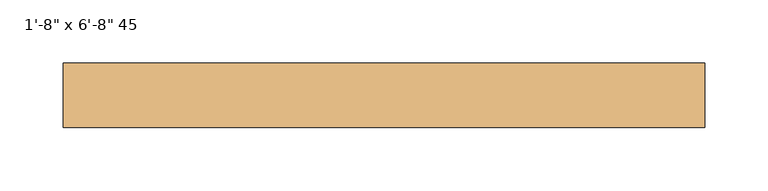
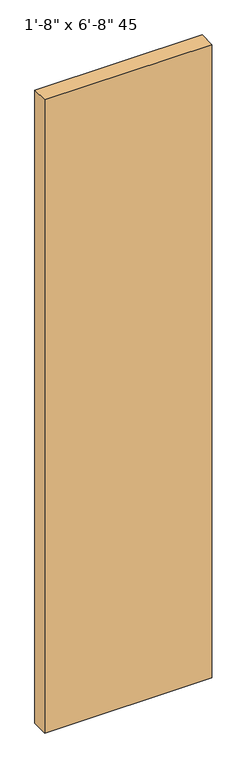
"""IFC4 building model written with IfcOpenShell, lengths in millimetres: door geometry."""

from ifc_helpers import new_model, si_unit, origin, origin_with_axes, place, context, project, spatial, polyline, outline, extrude, source, transform, mapped, element, save


def door_e654672a(model_context):
    return source(origin(), model_context, "Body", "SweptSolid", [
        extrude(outline(polyline([(254.0, 6.1515625), (-254.0, 6.1515625), (-254.0, 57.15), (254.0, 57.15), (254.0, 6.1515625)])), origin_with_axes(), (0.0, 0.0, 1.0), 2032.0),
    ])


if __name__ == "__main__":
    model = new_model("IFC4")
    model_context = context("Model", 3, world=origin())
    ifc_project = project(units=[si_unit("LENGTHUNIT", "METRE", prefix="MILLI")], contexts=[model_context])
    site = spatial("IfcSite", under=ifc_project)
    building = spatial("IfcBuilding", under=site)
    placement = place(None, origin())
    door_shape = door_e654672a(model_context)
    element("IfcDoor", 1, ObjectType="Planitar - Single Door_Flush Panel : 1'-8\" x 6'-8\" 45", at=placement, inside=building, context=model_context, shape_type="MappedRepresentation", body=[
        mapped(door_shape, transform((0.0, 0.0, 0.0), x_axis=(1.0, 0.0, 0.0), y_axis=(0.0, 1.0, 0.0), z_axis=(0.0, 0.0, 1.0))),
    ])
    save(model, "model.ifc")
